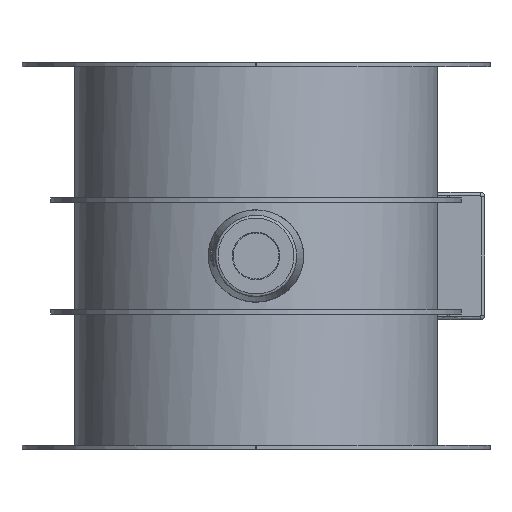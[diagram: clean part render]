
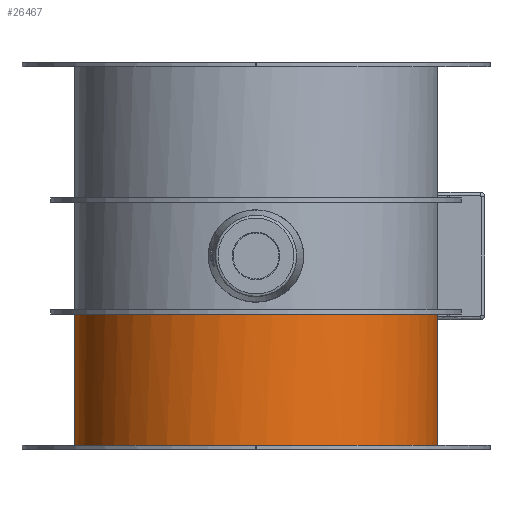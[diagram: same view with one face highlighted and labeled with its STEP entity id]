
A CAD part, left-side view. The second image highlights one B-rep face of the part: STEP entity #26467.
In plain terms, the highlighted free-form (B-spline) face has degree [2, 1] with [7, 2] control points.
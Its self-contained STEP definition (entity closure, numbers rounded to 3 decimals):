
#25757=CARTESIAN_POINT('',(126.75,0.,-132.));
#25758=VERTEX_POINT('',#25757);
#25759=CARTESIAN_POINT('',(126.75,0.,-132.));
#25760=CARTESIAN_POINT('',(126.75,-219.537,-132.));
#25761=CARTESIAN_POINT('',(-63.375,-109.769,-132.));
#25762=CARTESIAN_POINT('',(-253.5,0.,-132.));
#25763=CARTESIAN_POINT('',(-63.375,109.769,-132.));
#25764=CARTESIAN_POINT('',(126.75,219.537,-132.));
#25765=CARTESIAN_POINT('',(126.75,0.,-132.));
#25766=(BOUNDED_CURVE()B_SPLINE_CURVE(2,(#25759,#25760,#25761,#25762,#25763,#25764,#25765),.CIRCULAR_ARC.,.T.,.U.)B_SPLINE_CURVE_WITH_KNOTS((3,2,2,3),(0.,0.333,0.667,1.),.UNSPECIFIED.)CURVE()GEOMETRIC_REPRESENTATION_ITEM()RATIONAL_B_SPLINE_CURVE((1.,0.5,1.,0.5,1.,0.5,1.))REPRESENTATION_ITEM(''));
#25767=EDGE_CURVE('',#25758,#25758,#25766,.T.);
#26431=CARTESIAN_POINT('',(126.75,0.,-132.));
#26432=CARTESIAN_POINT('',(126.75,0.,132.));
#26433=CARTESIAN_POINT('',(126.75,219.537,-132.));
#26434=CARTESIAN_POINT('',(126.75,219.537,132.));
#26435=CARTESIAN_POINT('',(-63.375,109.769,-132.));
#26436=CARTESIAN_POINT('',(-63.375,109.769,132.));
#26437=CARTESIAN_POINT('',(-253.5,0.,-132.));
#26438=CARTESIAN_POINT('',(-253.5,0.,132.));
#26439=CARTESIAN_POINT('',(-63.375,-109.769,-132.));
#26440=CARTESIAN_POINT('',(-63.375,-109.769,132.));
#26441=CARTESIAN_POINT('',(126.75,-219.537,-132.));
#26442=CARTESIAN_POINT('',(126.75,-219.537,132.));
#26443=CARTESIAN_POINT('',(126.75,0.,-132.));
#26444=CARTESIAN_POINT('',(126.75,0.,132.));
#26445=(BOUNDED_SURFACE()B_SPLINE_SURFACE(2,1,((#26431,#26432),(#26433,#26434),(#26435,#26436),(#26437,#26438),(#26439,#26440),(#26441,#26442),(#26443,#26444)),.CYLINDRICAL_SURF.,.T.,.F.,.U.)B_SPLINE_SURFACE_WITH_KNOTS((3,2,2,3),(2,2),(0.,0.333,0.667,1.),(0.004,0.996),.UNSPECIFIED.)GEOMETRIC_REPRESENTATION_ITEM()RATIONAL_B_SPLINE_SURFACE(((1.,1.),(0.5,0.5),(1.,1.),(0.5,0.5),(1.,1.),(0.5,0.5),(1.,1.)))REPRESENTATION_ITEM('')SURFACE());
#26446=ORIENTED_EDGE('',*,*,#25767,.F.);
#26447=CARTESIAN_POINT('',(126.75,0.,-40.5));
#26448=VERTEX_POINT('',#26447);
#26449=CARTESIAN_POINT('',(126.75,0.,-132.));
#26450=CARTESIAN_POINT('',(126.75,0.,-40.5));
#26451=B_SPLINE_CURVE_WITH_KNOTS('',1,(#26449,#26450),.POLYLINE_FORM.,.F.,.U.,(2,2),(0.004,0.348),.UNSPECIFIED.);
#26452=EDGE_CURVE('',#25758,#26448,#26451,.T.);
#26453=ORIENTED_EDGE('',*,*,#26452,.T.);
#26454=CARTESIAN_POINT('',(126.75,0.,-40.5));
#26455=CARTESIAN_POINT('',(126.75,219.537,-40.5));
#26456=CARTESIAN_POINT('',(-63.375,109.769,-40.5));
#26457=CARTESIAN_POINT('',(-253.5,0.,-40.5));
#26458=CARTESIAN_POINT('',(-63.375,-109.769,-40.5));
#26459=CARTESIAN_POINT('',(126.75,-219.537,-40.5));
#26460=CARTESIAN_POINT('',(126.75,0.,-40.5));
#26461=(BOUNDED_CURVE()B_SPLINE_CURVE(2,(#26454,#26455,#26456,#26457,#26458,#26459,#26460),.CIRCULAR_ARC.,.T.,.U.)B_SPLINE_CURVE_WITH_KNOTS((3,2,2,3),(0.,0.333,0.667,1.),.UNSPECIFIED.)CURVE()GEOMETRIC_REPRESENTATION_ITEM()RATIONAL_B_SPLINE_CURVE((1.,0.5,1.,0.5,1.,0.5,1.))REPRESENTATION_ITEM(''));
#26462=EDGE_CURVE('',#26448,#26448,#26461,.T.);
#26463=ORIENTED_EDGE('',*,*,#26462,.F.);
#26464=ORIENTED_EDGE('',*,*,#26452,.F.);
#26465=EDGE_LOOP('',(#26446,#26453,#26463,#26464));
#26466=FACE_OUTER_BOUND('',#26465,.T.);
#26467=ADVANCED_FACE('',(#26466),#26445,.T.);
